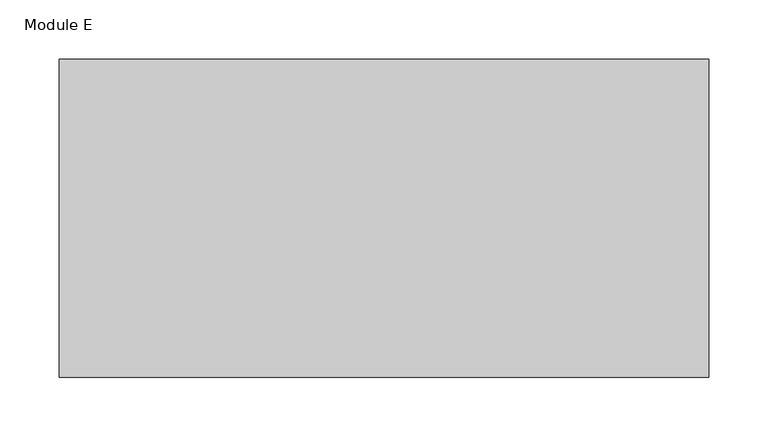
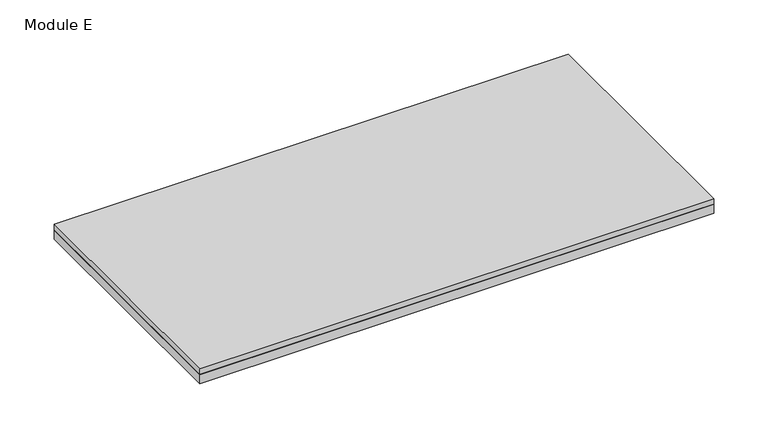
"""IFC4 building model written with IfcOpenShell, lengths in millimetres: proxy geometry, Spinneybeck_Wave : Module E."""

from ifc_helpers import new_model, si_unit, frame, origin, origin_with_axes, place, context, project, spatial, polyline, outline, extrude, source, transform, mapped, element, save


def module_e_a733a758(model_context):
    return source(origin(), model_context, "Body", "SweptSolid", [
        extrude(outline(polyline([(547.37, -134.0996528), (0.0, -134.0996528), (0.0, 134.0996528), (547.37, 134.0996528), (547.37, -134.0996528)])), origin_with_axes(), (0.0, 0.0, 1.0), 10.0210938),
        extrude(outline(polyline([(0.0, 134.0996528), (547.37, 134.0996528), (547.37, -134.0996528), (0.0, -134.0996528), (0.0, 134.0996528)])), frame((0.0, 0.0, 10.0210938), z_axis=(0.0, 0.0, 1.0), x_axis=(1.0, 0.0, 0.0)), (0.0, 0.0, 1.0), 6.35),
    ])


if __name__ == "__main__":
    model = new_model("IFC4")
    model_context = context("Model", 3, world=origin())
    ifc_project = project(units=[si_unit("LENGTHUNIT", "METRE", prefix="MILLI")], contexts=[model_context])
    site = spatial("IfcSite", under=ifc_project)
    building = spatial("IfcBuilding", under=site)
    placement = place(None, origin())
    module_e_shape = module_e_a733a758(model_context)
    element("IfcBuildingElementProxy", 1, Name="Spinneybeck_Wave : Module E", ObjectType="Spinneybeck_Wave : Module E", at=placement, inside=building, context=model_context, shape_type="MappedRepresentation", body=[
        mapped(module_e_shape, transform((0.0, 0.0, 0.0), x_axis=(1.0, 0.0, 0.0), y_axis=(0.0, 1.0, 0.0), z_axis=(0.0, 0.0, 1.0))),
    ])
    save(model, "model.ifc")
